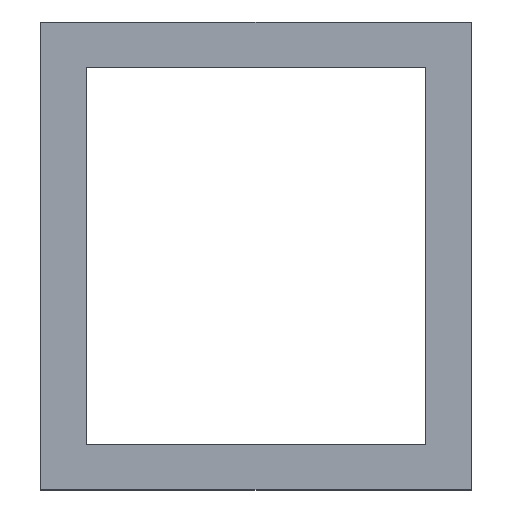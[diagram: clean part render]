
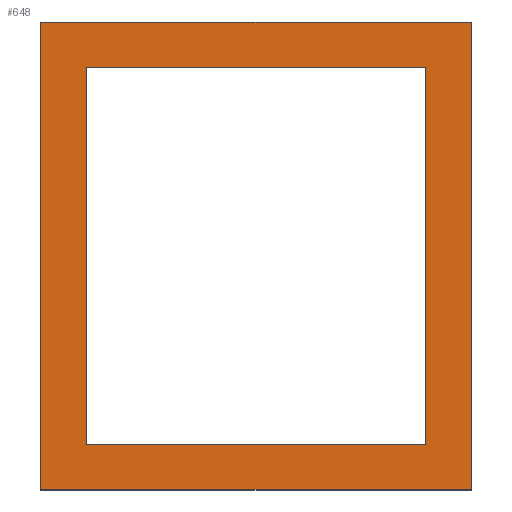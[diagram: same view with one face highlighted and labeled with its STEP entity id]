
A CAD part, top view. The second image highlights one B-rep face of the part: STEP entity #648.
In plain terms, the highlighted planar face has unit normal (0, 0, 1).
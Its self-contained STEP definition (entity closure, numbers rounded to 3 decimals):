
#24 = VERTEX_POINT('',#25);
#25 = CARTESIAN_POINT('',(-285.,-310.,12.));
#32 = PLANE('',#33);
#33 = AXIS2_PLACEMENT_3D('',#34,#35,#36);
#34 = CARTESIAN_POINT('',(-285.,-310.,0.));
#35 = DIRECTION('',(0.,1.,0.));
#36 = DIRECTION('',(1.,0.,0.));
#44 = PLANE('',#45);
#45 = AXIS2_PLACEMENT_3D('',#46,#47,#48);
#46 = CARTESIAN_POINT('',(-285.,310.,0.));
#47 = DIRECTION('',(1.,0.,-0.));
#48 = DIRECTION('',(0.,-1.,0.));
#56 = EDGE_CURVE('',#24,#57,#59,.T.);
#57 = VERTEX_POINT('',#58);
#58 = CARTESIAN_POINT('',(285.,-310.,12.));
#59 = SURFACE_CURVE('',#60,(#64,#71),.PCURVE_S1.);
#60 = LINE('',#61,#62);
#61 = CARTESIAN_POINT('',(-285.,-310.,12.));
#62 = VECTOR('',#63,1.);
#63 = DIRECTION('',(1.,0.,0.));
#64 = PCURVE('',#32,#65);
#65 = DEFINITIONAL_REPRESENTATION('',(#66),#70);
#66 = LINE('',#67,#68);
#67 = CARTESIAN_POINT('',(0.,-12.));
#68 = VECTOR('',#69,1.);
#69 = DIRECTION('',(1.,0.));
#70 = ( GEOMETRIC_REPRESENTATION_CONTEXT(2) 
PARAMETRIC_REPRESENTATION_CONTEXT() REPRESENTATION_CONTEXT('2D SPACE',''
  ) );
#71 = PCURVE('',#72,#77);
#72 = PLANE('',#73);
#73 = AXIS2_PLACEMENT_3D('',#74,#75,#76);
#74 = CARTESIAN_POINT('',(0.,0.,12.));
#75 = DIRECTION('',(0.,0.,1.));
#76 = DIRECTION('',(1.,0.,-0.));
#77 = DEFINITIONAL_REPRESENTATION('',(#78),#82);
#78 = LINE('',#79,#80);
#79 = CARTESIAN_POINT('',(-285.,-310.));
#80 = VECTOR('',#81,1.);
#81 = DIRECTION('',(1.,0.));
#82 = ( GEOMETRIC_REPRESENTATION_CONTEXT(2) 
PARAMETRIC_REPRESENTATION_CONTEXT() REPRESENTATION_CONTEXT('2D SPACE',''
  ) );
#100 = PLANE('',#101);
#101 = AXIS2_PLACEMENT_3D('',#102,#103,#104);
#102 = CARTESIAN_POINT('',(285.,-310.,0.));
#103 = DIRECTION('',(-1.,0.,0.));
#104 = DIRECTION('',(0.,1.,0.));
#142 = EDGE_CURVE('',#57,#143,#145,.T.);
#143 = VERTEX_POINT('',#144);
#144 = CARTESIAN_POINT('',(285.,310.,12.));
#145 = SURFACE_CURVE('',#146,(#150,#157),.PCURVE_S1.);
#146 = LINE('',#147,#148);
#147 = CARTESIAN_POINT('',(285.,-310.,12.));
#148 = VECTOR('',#149,1.);
#149 = DIRECTION('',(0.,1.,0.));
#150 = PCURVE('',#100,#151);
#151 = DEFINITIONAL_REPRESENTATION('',(#152),#156);
#152 = LINE('',#153,#154);
#153 = CARTESIAN_POINT('',(0.,-12.));
#154 = VECTOR('',#155,1.);
#155 = DIRECTION('',(1.,0.));
#156 = ( GEOMETRIC_REPRESENTATION_CONTEXT(2) 
PARAMETRIC_REPRESENTATION_CONTEXT() REPRESENTATION_CONTEXT('2D SPACE',''
  ) );
#157 = PCURVE('',#72,#158);
#158 = DEFINITIONAL_REPRESENTATION('',(#159),#163);
#159 = LINE('',#160,#161);
#160 = CARTESIAN_POINT('',(285.,-310.));
#161 = VECTOR('',#162,1.);
#162 = DIRECTION('',(0.,1.));
#163 = ( GEOMETRIC_REPRESENTATION_CONTEXT(2) 
PARAMETRIC_REPRESENTATION_CONTEXT() REPRESENTATION_CONTEXT('2D SPACE',''
  ) );
#181 = PLANE('',#182);
#182 = AXIS2_PLACEMENT_3D('',#183,#184,#185);
#183 = CARTESIAN_POINT('',(285.,310.,0.));
#184 = DIRECTION('',(0.,-1.,0.));
#185 = DIRECTION('',(-1.,0.,0.));
#218 = EDGE_CURVE('',#143,#219,#221,.T.);
#219 = VERTEX_POINT('',#220);
#220 = CARTESIAN_POINT('',(-285.,310.,12.));
#221 = SURFACE_CURVE('',#222,(#226,#233),.PCURVE_S1.);
#222 = LINE('',#223,#224);
#223 = CARTESIAN_POINT('',(285.,310.,12.));
#224 = VECTOR('',#225,1.);
#225 = DIRECTION('',(-1.,0.,0.));
#226 = PCURVE('',#181,#227);
#227 = DEFINITIONAL_REPRESENTATION('',(#228),#232);
#228 = LINE('',#229,#230);
#229 = CARTESIAN_POINT('',(0.,-12.));
#230 = VECTOR('',#231,1.);
#231 = DIRECTION('',(1.,0.));
#232 = ( GEOMETRIC_REPRESENTATION_CONTEXT(2) 
PARAMETRIC_REPRESENTATION_CONTEXT() REPRESENTATION_CONTEXT('2D SPACE',''
  ) );
#233 = PCURVE('',#72,#234);
#234 = DEFINITIONAL_REPRESENTATION('',(#235),#239);
#235 = LINE('',#236,#237);
#236 = CARTESIAN_POINT('',(285.,310.));
#237 = VECTOR('',#238,1.);
#238 = DIRECTION('',(-1.,0.));
#239 = ( GEOMETRIC_REPRESENTATION_CONTEXT(2) 
PARAMETRIC_REPRESENTATION_CONTEXT() REPRESENTATION_CONTEXT('2D SPACE',''
  ) );
#289 = EDGE_CURVE('',#219,#24,#290,.T.);
#290 = SURFACE_CURVE('',#291,(#295,#302),.PCURVE_S1.);
#291 = LINE('',#292,#293);
#292 = CARTESIAN_POINT('',(-285.,310.,12.));
#293 = VECTOR('',#294,1.);
#294 = DIRECTION('',(0.,-1.,0.));
#295 = PCURVE('',#44,#296);
#296 = DEFINITIONAL_REPRESENTATION('',(#297),#301);
#297 = LINE('',#298,#299);
#298 = CARTESIAN_POINT('',(0.,-12.));
#299 = VECTOR('',#300,1.);
#300 = DIRECTION('',(1.,0.));
#301 = ( GEOMETRIC_REPRESENTATION_CONTEXT(2) 
PARAMETRIC_REPRESENTATION_CONTEXT() REPRESENTATION_CONTEXT('2D SPACE',''
  ) );
#302 = PCURVE('',#72,#303);
#303 = DEFINITIONAL_REPRESENTATION('',(#304),#308);
#304 = LINE('',#305,#306);
#305 = CARTESIAN_POINT('',(-285.,310.));
#306 = VECTOR('',#307,1.);
#307 = DIRECTION('',(0.,-1.));
#308 = ( GEOMETRIC_REPRESENTATION_CONTEXT(2) 
PARAMETRIC_REPRESENTATION_CONTEXT() REPRESENTATION_CONTEXT('2D SPACE',''
  ) );
#338 = VERTEX_POINT('',#339);
#339 = CARTESIAN_POINT('',(-225.,-250.,12.));
#346 = PLANE('',#347);
#347 = AXIS2_PLACEMENT_3D('',#348,#349,#350);
#348 = CARTESIAN_POINT('',(-225.,-250.,0.));
#349 = DIRECTION('',(0.,1.,0.));
#350 = DIRECTION('',(1.,0.,0.));
#358 = PLANE('',#359);
#359 = AXIS2_PLACEMENT_3D('',#360,#361,#362);
#360 = CARTESIAN_POINT('',(-225.,250.,0.));
#361 = DIRECTION('',(1.,0.,-0.));
#362 = DIRECTION('',(0.,-1.,0.));
#370 = EDGE_CURVE('',#338,#371,#373,.T.);
#371 = VERTEX_POINT('',#372);
#372 = CARTESIAN_POINT('',(225.,-250.,12.));
#373 = SURFACE_CURVE('',#374,(#378,#385),.PCURVE_S1.);
#374 = LINE('',#375,#376);
#375 = CARTESIAN_POINT('',(-225.,-250.,12.));
#376 = VECTOR('',#377,1.);
#377 = DIRECTION('',(1.,0.,0.));
#378 = PCURVE('',#346,#379);
#379 = DEFINITIONAL_REPRESENTATION('',(#380),#384);
#380 = LINE('',#381,#382);
#381 = CARTESIAN_POINT('',(0.,-12.));
#382 = VECTOR('',#383,1.);
#383 = DIRECTION('',(1.,0.));
#384 = ( GEOMETRIC_REPRESENTATION_CONTEXT(2) 
PARAMETRIC_REPRESENTATION_CONTEXT() REPRESENTATION_CONTEXT('2D SPACE',''
  ) );
#385 = PCURVE('',#72,#386);
#386 = DEFINITIONAL_REPRESENTATION('',(#387),#391);
#387 = LINE('',#388,#389);
#388 = CARTESIAN_POINT('',(-225.,-250.));
#389 = VECTOR('',#390,1.);
#390 = DIRECTION('',(1.,0.));
#391 = ( GEOMETRIC_REPRESENTATION_CONTEXT(2) 
PARAMETRIC_REPRESENTATION_CONTEXT() REPRESENTATION_CONTEXT('2D SPACE',''
  ) );
#409 = PLANE('',#410);
#410 = AXIS2_PLACEMENT_3D('',#411,#412,#413);
#411 = CARTESIAN_POINT('',(225.,-250.,0.));
#412 = DIRECTION('',(-1.,0.,0.));
#413 = DIRECTION('',(0.,1.,0.));
#446 = EDGE_CURVE('',#371,#447,#449,.T.);
#447 = VERTEX_POINT('',#448);
#448 = CARTESIAN_POINT('',(225.,250.,12.));
#449 = SURFACE_CURVE('',#450,(#454,#461),.PCURVE_S1.);
#450 = LINE('',#451,#452);
#451 = CARTESIAN_POINT('',(225.,-250.,12.));
#452 = VECTOR('',#453,1.);
#453 = DIRECTION('',(0.,1.,0.));
#454 = PCURVE('',#409,#455);
#455 = DEFINITIONAL_REPRESENTATION('',(#456),#460);
#456 = LINE('',#457,#458);
#457 = CARTESIAN_POINT('',(0.,-12.));
#458 = VECTOR('',#459,1.);
#459 = DIRECTION('',(1.,0.));
#460 = ( GEOMETRIC_REPRESENTATION_CONTEXT(2) 
PARAMETRIC_REPRESENTATION_CONTEXT() REPRESENTATION_CONTEXT('2D SPACE',''
  ) );
#461 = PCURVE('',#72,#462);
#462 = DEFINITIONAL_REPRESENTATION('',(#463),#467);
#463 = LINE('',#464,#465);
#464 = CARTESIAN_POINT('',(225.,-250.));
#465 = VECTOR('',#466,1.);
#466 = DIRECTION('',(0.,1.));
#467 = ( GEOMETRIC_REPRESENTATION_CONTEXT(2) 
PARAMETRIC_REPRESENTATION_CONTEXT() REPRESENTATION_CONTEXT('2D SPACE',''
  ) );
#485 = PLANE('',#486);
#486 = AXIS2_PLACEMENT_3D('',#487,#488,#489);
#487 = CARTESIAN_POINT('',(225.,250.,0.));
#488 = DIRECTION('',(0.,-1.,0.));
#489 = DIRECTION('',(-1.,0.,0.));
#522 = EDGE_CURVE('',#447,#523,#525,.T.);
#523 = VERTEX_POINT('',#524);
#524 = CARTESIAN_POINT('',(-225.,250.,12.));
#525 = SURFACE_CURVE('',#526,(#530,#537),.PCURVE_S1.);
#526 = LINE('',#527,#528);
#527 = CARTESIAN_POINT('',(225.,250.,12.));
#528 = VECTOR('',#529,1.);
#529 = DIRECTION('',(-1.,0.,0.));
#530 = PCURVE('',#485,#531);
#531 = DEFINITIONAL_REPRESENTATION('',(#532),#536);
#532 = LINE('',#533,#534);
#533 = CARTESIAN_POINT('',(0.,-12.));
#534 = VECTOR('',#535,1.);
#535 = DIRECTION('',(1.,0.));
#536 = ( GEOMETRIC_REPRESENTATION_CONTEXT(2) 
PARAMETRIC_REPRESENTATION_CONTEXT() REPRESENTATION_CONTEXT('2D SPACE',''
  ) );
#537 = PCURVE('',#72,#538);
#538 = DEFINITIONAL_REPRESENTATION('',(#539),#543);
#539 = LINE('',#540,#541);
#540 = CARTESIAN_POINT('',(225.,250.));
#541 = VECTOR('',#542,1.);
#542 = DIRECTION('',(-1.,0.));
#543 = ( GEOMETRIC_REPRESENTATION_CONTEXT(2) 
PARAMETRIC_REPRESENTATION_CONTEXT() REPRESENTATION_CONTEXT('2D SPACE',''
  ) );
#593 = EDGE_CURVE('',#523,#338,#594,.T.);
#594 = SURFACE_CURVE('',#595,(#599,#606),.PCURVE_S1.);
#595 = LINE('',#596,#597);
#596 = CARTESIAN_POINT('',(-225.,250.,12.));
#597 = VECTOR('',#598,1.);
#598 = DIRECTION('',(0.,-1.,0.));
#599 = PCURVE('',#358,#600);
#600 = DEFINITIONAL_REPRESENTATION('',(#601),#605);
#601 = LINE('',#602,#603);
#602 = CARTESIAN_POINT('',(0.,-12.));
#603 = VECTOR('',#604,1.);
#604 = DIRECTION('',(1.,0.));
#605 = ( GEOMETRIC_REPRESENTATION_CONTEXT(2) 
PARAMETRIC_REPRESENTATION_CONTEXT() REPRESENTATION_CONTEXT('2D SPACE',''
  ) );
#606 = PCURVE('',#72,#607);
#607 = DEFINITIONAL_REPRESENTATION('',(#608),#612);
#608 = LINE('',#609,#610);
#609 = CARTESIAN_POINT('',(-225.,250.));
#610 = VECTOR('',#611,1.);
#611 = DIRECTION('',(0.,-1.));
#612 = ( GEOMETRIC_REPRESENTATION_CONTEXT(2) 
PARAMETRIC_REPRESENTATION_CONTEXT() REPRESENTATION_CONTEXT('2D SPACE',''
  ) );
#648 = ADVANCED_FACE('',(#649,#655),#72,.T.);
#649 = FACE_BOUND('',#650,.T.);
#650 = EDGE_LOOP('',(#651,#652,#653,#654));
#651 = ORIENTED_EDGE('',*,*,#56,.T.);
#652 = ORIENTED_EDGE('',*,*,#142,.T.);
#653 = ORIENTED_EDGE('',*,*,#218,.T.);
#654 = ORIENTED_EDGE('',*,*,#289,.T.);
#655 = FACE_BOUND('',#656,.F.);
#656 = EDGE_LOOP('',(#657,#658,#659,#660));
#657 = ORIENTED_EDGE('',*,*,#370,.T.);
#658 = ORIENTED_EDGE('',*,*,#446,.T.);
#659 = ORIENTED_EDGE('',*,*,#522,.T.);
#660 = ORIENTED_EDGE('',*,*,#593,.T.);
